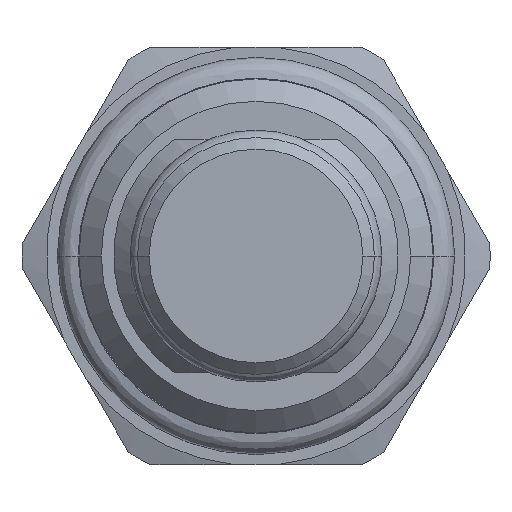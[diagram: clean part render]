
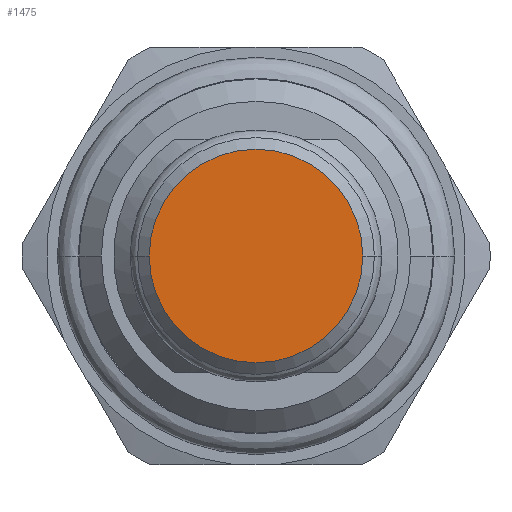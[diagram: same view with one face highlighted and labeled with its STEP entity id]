
A CAD part, front view. The second image highlights one B-rep face of the part: STEP entity #1475.
In plain terms, the highlighted planar face has unit normal (0, -1, 0).
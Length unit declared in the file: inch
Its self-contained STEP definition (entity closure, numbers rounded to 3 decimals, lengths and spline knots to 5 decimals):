
#243=CARTESIAN_POINT('',(0.,-1.091,0.));
#244=DIRECTION('',(0.,-1.,0.));
#245=DIRECTION('',(1.,0.,0.));
#246=AXIS2_PLACEMENT_3D('',#243,#244,#245);
#257=CARTESIAN_POINT('',(0.,-1.091,0.));
#258=DIRECTION('',(0.,-1.,0.));
#259=DIRECTION('',(-1.,0.,0.));
#260=AXIS2_PLACEMENT_3D('',#257,#258,#259);
#937=CARTESIAN_POINT('',(-0.224,-1.091,0.));
#938=CARTESIAN_POINT('',(0.224,-1.091,0.));
#939=VERTEX_POINT('',#937);
#940=VERTEX_POINT('',#938);
#1466=CARTESIAN_POINT('',(0.,-1.091,0.));
#1467=DIRECTION('',(0.,-1.,0.));
#1468=DIRECTION('',(-1.,0.,0.));
#1469=AXIS2_PLACEMENT_3D('',#1466,#1467,#1468);
#1470=PLANE('',#1469);
#1471=ORIENTED_EDGE('',*,*,#1460,.F.);
#1472=ORIENTED_EDGE('',*,*,#1446,.F.);
#1473=EDGE_LOOP('',(#1471,#1472));
#1474=FACE_OUTER_BOUND('',#1473,.F.);
#1475=ADVANCED_FACE('',(#1474),#1470,.T.);
#247=CIRCLE('',#246,0.224);
#261=CIRCLE('',#260,0.224);
#1446=EDGE_CURVE('',#940,#939,#247,.T.);
#1460=EDGE_CURVE('',#939,#940,#261,.T.);
